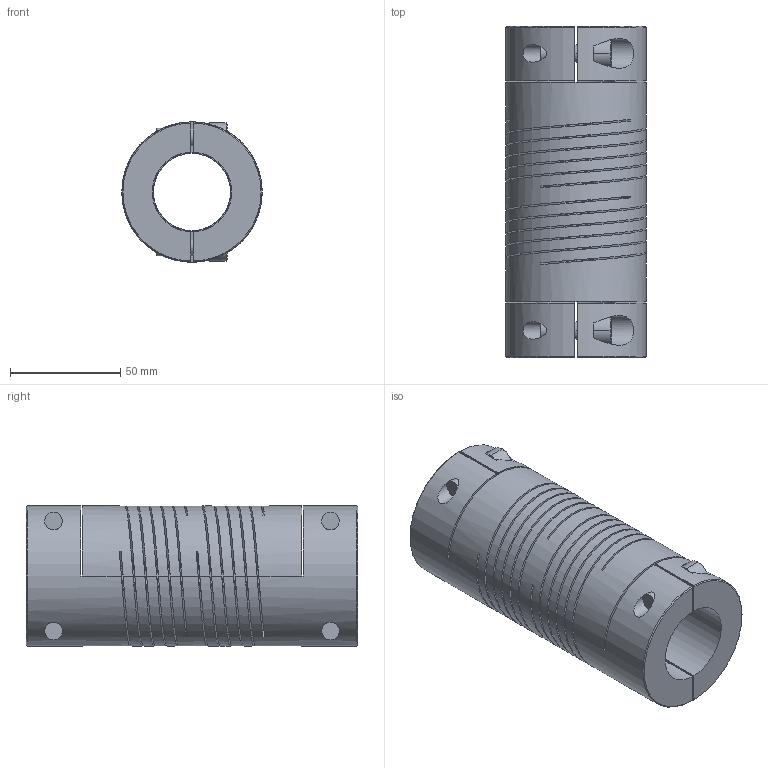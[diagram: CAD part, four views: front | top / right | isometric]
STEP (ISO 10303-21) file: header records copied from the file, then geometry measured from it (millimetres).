
FILE_DESCRIPTION((''),'2;1');
FILE_NAME('703_64','2006-12-06T',('Gary Melling'),(''),'PRO/ENGINEER BY PARAMETRIC TECHNOLOGY CORPORATION, 2006240','PRO/ENGINEER BY PARAMETRIC TECHNOLOGY CORPORATION, 2006240','');
FILE_SCHEMA(('CONFIG_CONTROL_DESIGN'));
Length unit declared in the file: millimetre
Products named in the file (1): 703_64
Bounding box: 63.5 x 150 x 63.5 mm (x, y, z)
Volume: 300336.9 mm3; surface area: 108034.1 mm2
Topology: 1 solids, 1 shells, 176 faces, 486 edges, 312 vertices
Faces by surface type: plane 82, cylinder 70, bspline 12, cone 12
Entity records: 9079 total; most frequent: CARTESIAN_POINT 4733, ORIENTED_EDGE 972, DIRECTION 778, EDGE_CURVE 486, VERTEX_POINT 312, AXIS2_PLACEMENT_3D 260, VECTOR 258, LINE 258
